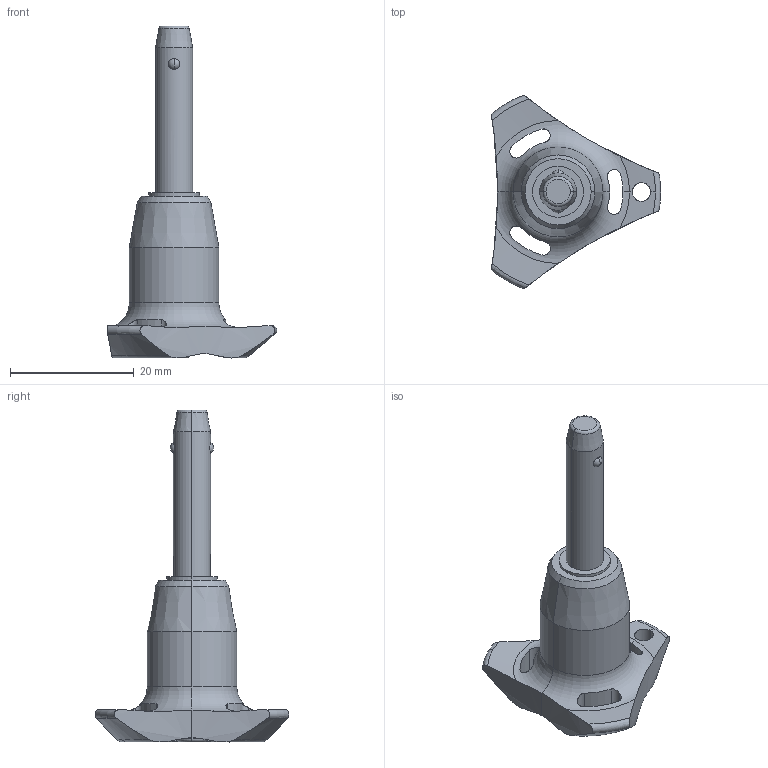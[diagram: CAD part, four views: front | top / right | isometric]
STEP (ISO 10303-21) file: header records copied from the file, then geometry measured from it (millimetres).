
FILE_DESCRIPTION (( 'STEP AP203' ), '1' );
FILE_NAME ('QR1704.M06-020-S.step', '2025-11-12T09:12:15', ( '' ), ( '' ), 'SwSTEP 2.0', 'SolidWorks 2019', '' );
FILE_SCHEMA (( 'CONFIG_CONTROL_DESIGN' ));
Length unit declared in the file: millimetre
Products named in the file (1): QR1704.M06-020-S
Bounding box: 27.4 x 31.31 x 53.7 mm (x, y, z)
Volume: 5531.6 mm3; surface area: 2929.8 mm2
Topology: 1 solids, 1 shells, 66 faces, 181 edges, 115 vertices
Faces by surface type: cylinder 30, cone 14, torus 12, sphere 6, plane 4
Entity records: 2709 total; most frequent: CARTESIAN_POINT 997, ORIENTED_EDGE 362, DIRECTION 332, EDGE_CURVE 181, AXIS2_PLACEMENT_3D 148, VERTEX_POINT 115, CIRCLE 81, EDGE_LOOP 72
